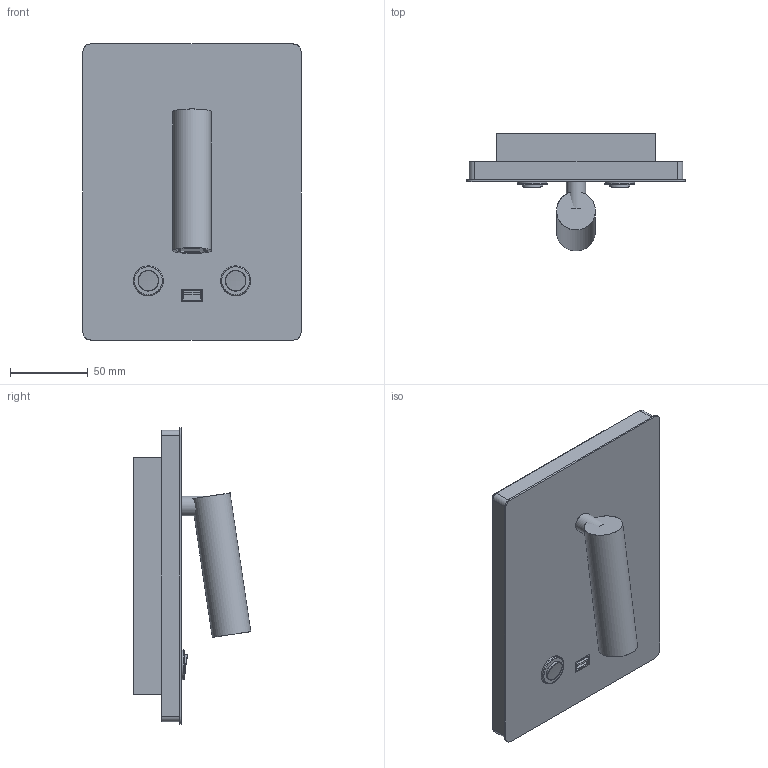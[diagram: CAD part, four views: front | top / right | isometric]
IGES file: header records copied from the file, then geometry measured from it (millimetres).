
Global section: file name: C:\Users\EQUIPO\Desktop\COLECCIONES ACB MODELADAS 3D OK\MANAT\manat-16-3568-led (IGES).igs; native system: Rhinoceros ( Oct  8 2013 ); preprocessor: Trout Lake IGES 012 Oct  8 2013; date: 190207.090557; units: millimetre
Bounding box: 140 x 75.52 x 190 mm (x, y, z)
Surface area: 173623.1 mm2 (no closed solid volume)
Topology: 0 solids, 0 shells, 85 faces, 614 edges, 606 vertices
Faces by surface type: bspline 85
